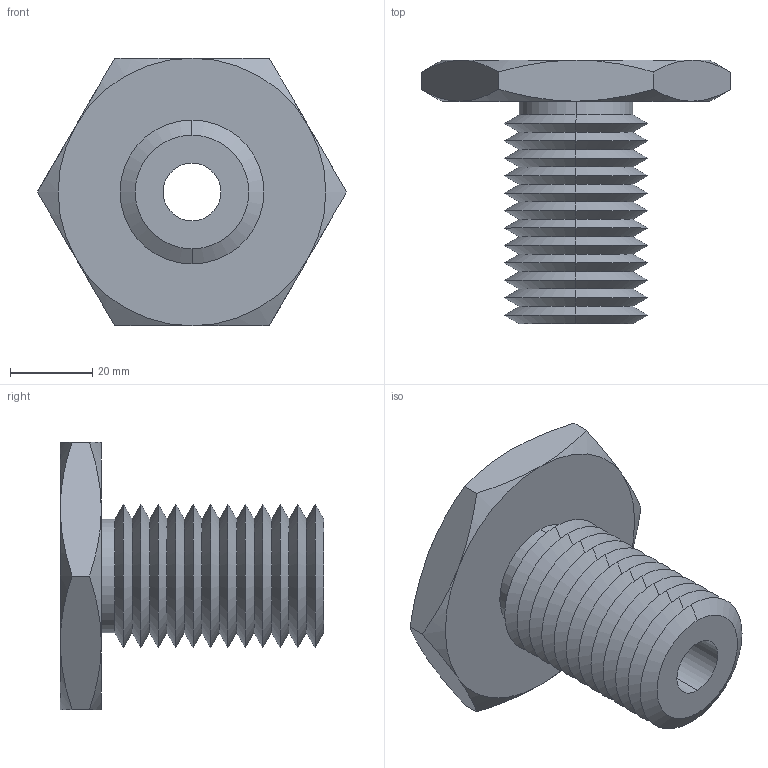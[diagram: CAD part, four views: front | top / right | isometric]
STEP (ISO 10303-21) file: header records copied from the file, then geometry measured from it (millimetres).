
FILE_DESCRIPTION (( 'STEP AP203' ), '1' );
FILE_NAME ('63302.W5138_M14x2.step', '2013-12-08T11:41:25', ( 'User' ), ( '' ), 'SwSTEP 2.0', 'SolidWorks 2009', '' );
FILE_SCHEMA (( 'CONFIG_CONTROL_DESIGN' ));
Length unit declared in the file: millimetre
Products named in the file (1): 63302.W5138_M14x2
Bounding box: 75.06 x 64 x 65 mm (x, y, z)
Volume: 67136 mm3; surface area: 21940.2 mm2
Topology: 1 solids, 1 shells, 75 faces, 154 edges, 82 vertices
Faces by surface type: cone 62, plane 9, cylinder 4
Entity records: 2139 total; most frequent: CARTESIAN_POINT 496, DIRECTION 352, ORIENTED_EDGE 308, EDGE_CURVE 154, AXIS2_PLACEMENT_3D 146, VERTEX_POINT 82, EDGE_LOOP 78, ADVANCED_FACE 75
